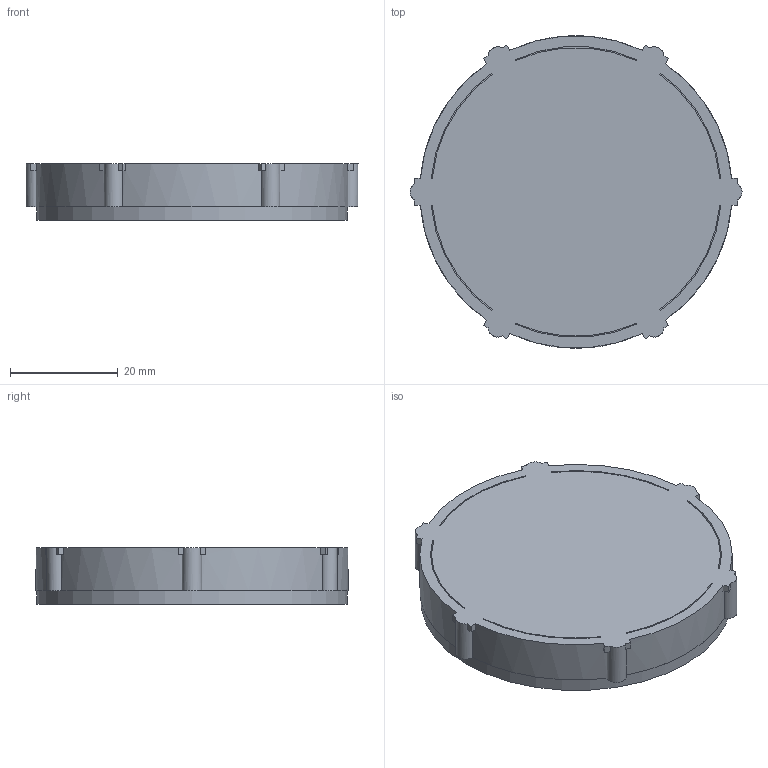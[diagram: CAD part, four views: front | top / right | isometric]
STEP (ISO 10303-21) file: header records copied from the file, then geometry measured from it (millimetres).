
FILE_DESCRIPTION(('Open CASCADE Model'),'2;1');
FILE_NAME('Open CASCADE Shape Model','2026-11-03T18:39:03',('Author'),( 'Open CASCADE'),'Open CASCADE STEP processor 7.9','Open CASCADE 7.9' ,'Unknown');
FILE_SCHEMA(('AUTOMOTIVE_DESIGN { 1 0 10303 214 1 1 1 1 }'));
Length unit declared in the file: millimetre
Products named in the file (1): Open CASCADE STEP translator 7.9 3
Bounding box: 61.6 x 58 x 10.5 mm (x, y, z)
Volume: 8742.4 mm3; surface area: 9296.8 mm2
Topology: 1 solids, 1 shells, 90 faces, 231 edges, 154 vertices
Faces by surface type: plane 61, cylinder 29
Full cylindrical faces by diameter (mm): 5.2 x1, 7 x1, 50 x1, 51.95 x1, 57.6 x1
Entity records: 5749 total; most frequent: CARTESIAN_POINT 1274, DIRECTION 796, ORIENTED_EDGE 462, PCURVE 462, DEFINITIONAL_REPRESENTATION 462, LINE 403, VECTOR 403, EDGE_CURVE 231
